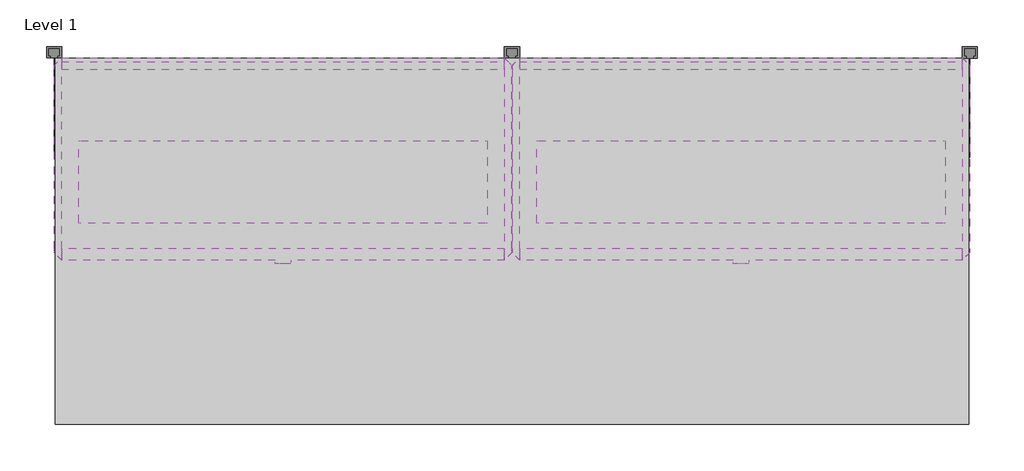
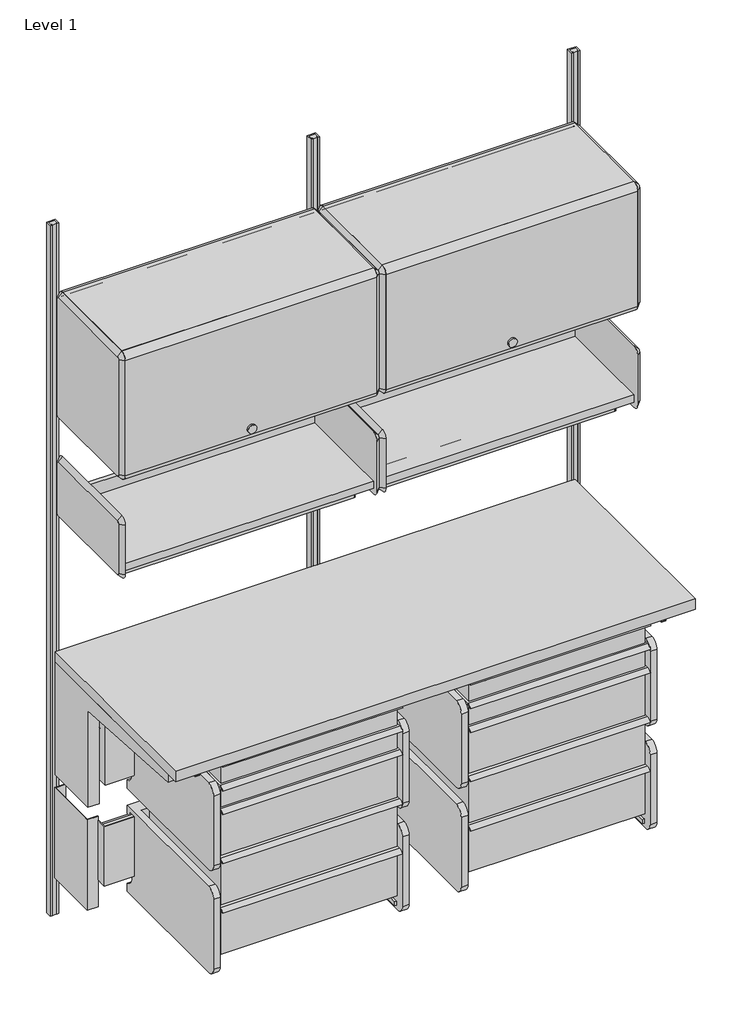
# One storey: 26 furniture elements, 2 light fixtures.
"""IFC4 building model written with IfcOpenShell, lengths in millimetres."""

from ifc_helpers import new_model, si_unit, origin, place, context, project, spatial, transform, mapped, element, save
from components import furniture_30ac351e, furniture_56be9a9d, furniture_df0166ae, furniture_f2a341e6, furniture_7098341d, furniture_a8f42cb3, furniture_48dc0a6c, furniture_10db817a, furniture_84h_ea425779, a_3_959e08d9, a_3_3943aac6, b_6_f3207868, b_6_2be62e06, b_6_bdab6ed6, light_fixture_30w_for_action_office_7d6e6015

model = new_model("IFC4")

# Units and contexts
model_context = context("Model", 3, world=origin())
ifc_project = project(units=[si_unit("LENGTHUNIT", "METRE", prefix="MILLI")], contexts=[model_context])

# Site, building, storey
site = spatial("IfcSite", under=ifc_project)
building = spatial("IfcBuilding", under=site)
storey = spatial("IfcBuildingStorey", under=building, Name="Level 1", Elevation=0.0)

# Furniture
placement = place(None, origin())
furniture_shape = furniture_30ac351e(model_context)
element("IfcFurniture", 1, ObjectType="HermanMiller_CoStruc_CO205_CFrame : 10H x 17D x 22W", at=placement, inside=storey, context=model_context, shape_type="MappedRepresentation", body=[
    mapped(furniture_shape, transform((310.5047151, -259.7955597, 0.0), x_axis=(1.0, 0.0, 0.0), y_axis=(0.0, 1.0, 0.0), z_axis=(0.0, 0.0, 1.0))),
])
element("IfcFurniture", 2, ObjectType="HermanMiller_CoStruc_CO205_CFrame : 10H x 17D x 22W", at=placement, inside=storey, context=model_context, shape_type="MappedRepresentation", body=[
    mapped(furniture_shape, transform((1035.1514751, -259.7955597, 0.0), x_axis=(1.0, 0.0, 0.0), y_axis=(0.0, 1.0, 0.0), z_axis=(0.0, 0.0, 1.0))),
])
furniture_2_shape = furniture_56be9a9d(model_context)
element("IfcFurniture", 3, ObjectType="HermanMiller_CoStruc_CO205_CFrame : 10H x 17D x 22W", at=placement, inside=storey, context=model_context, shape_type="MappedRepresentation", body=[
    mapped(furniture_2_shape, transform((310.5047151, -259.7955597, 0.0), x_axis=(1.0, 0.0, 0.0), y_axis=(0.0, 1.0, 0.0), z_axis=(0.0, 0.0, 1.0))),
])
element("IfcFurniture", 4, ObjectType="HermanMiller_CoStruc_CO205_CFrame : 10H x 17D x 22W", at=placement, inside=storey, context=model_context, shape_type="MappedRepresentation", body=[
    mapped(furniture_2_shape, transform((1035.1514751, -259.7955597, 0.0), x_axis=(1.0, 0.0, 0.0), y_axis=(0.0, 1.0, 0.0), z_axis=(0.0, 0.0, 1.0))),
])
furniture_3_shape = furniture_df0166ae(model_context)
element("IfcFurniture", 5, ObjectType="HermanMiller_CoStruc_C2192_CFrameSupport : 11H x 24D x 60W", at=placement, inside=storey, context=model_context, shape_type="MappedRepresentation", body=[
    mapped(furniture_3_shape, transform((762.0, 107.15625, 0.0), x_axis=(1.0, 0.0, 0.0), y_axis=(0.0, 1.0, 0.0), z_axis=(0.0, 0.0, 1.0))),
])
furniture_4_shape = furniture_f2a341e6(model_context)
element("IfcFurniture", 6, ObjectType="HermanMiller_CoStruc_C2141_Heavy-DutyWorkSurface : 24D x 60W Lam", at=placement, inside=storey, context=model_context, shape_type="MappedRepresentation", body=[
    mapped(furniture_4_shape, transform((304.8, -196.85, 0.0), x_axis=(1.0, 0.0, 0.0), y_axis=(0.0, 1.0, 0.0), z_axis=(0.0, 0.0, 1.0))),
])
furniture_5_shape = furniture_7098341d(model_context)
element("IfcFurniture", 7, ObjectType="HermanMiller_CoStruc_C2140W_WorkSurfaceSupport_ComponentAdaptor : 14H x 24D x 60W", at=placement, inside=storey, context=model_context, shape_type="MappedRepresentation", body=[
    mapped(furniture_5_shape, transform((762.0, -196.85, 0.0), x_axis=(1.0, 0.0, 0.0), y_axis=(0.0, 1.0, 0.0), z_axis=(0.0, 0.0, 1.0))),
])
furniture_6_shape = furniture_a8f42cb3(model_context)
element("IfcFurniture", 8, ObjectType="HermanMiller_ActionOffice_A3220_B-StyleStorageDisplay : Shelf 13D x 30W", at=placement, inside=storey, context=model_context, shape_type="MappedRepresentation", body=[
    mapped(furniture_6_shape, transform((1266.9420045, -200.025, 0.0), x_axis=(1.0, 0.0, 0.0), y_axis=(0.0, 1.0, 0.0), z_axis=(0.0, 0.0, 1.0))),
])
element("IfcFurniture", 9, ObjectType="HermanMiller_ActionOffice_A3220_B-StyleStorageDisplay : Shelf 13D x 30W", at=placement, inside=storey, context=model_context, shape_type="MappedRepresentation", body=[
    mapped(furniture_6_shape, transform((504.9420045, -200.025, 0.0), x_axis=(1.0, 0.0, 0.0), y_axis=(0.0, 1.0, 0.0), z_axis=(0.0, 0.0, 1.0))),
])
furniture_7_shape = furniture_48dc0a6c(model_context)
element("IfcFurniture", 10, ObjectType="HermanMiller_ActionOffice_B-StyleFlipperDoor : Paint 15-1/2H x 13D x 30W", at=placement, inside=storey, context=model_context, shape_type="MappedRepresentation", body=[
    mapped(furniture_7_shape, transform((381.0, -200.025, 457.2), x_axis=(1.0, 0.0, 0.0), y_axis=(0.0, 1.0, 0.0), z_axis=(0.0, 0.0, 1.0))),
])
element("IfcFurniture", 11, ObjectType="HermanMiller_ActionOffice_B-StyleFlipperDoor : Paint 15-1/2H x 13D x 30W", at=placement, inside=storey, context=model_context, shape_type="MappedRepresentation", body=[
    mapped(furniture_7_shape, transform((1143.0, -200.025, 457.2), x_axis=(1.0, 0.0, 0.0), y_axis=(0.0, 1.0, 0.0), z_axis=(0.0, 0.0, 1.0))),
])
furniture_8_shape = furniture_10db817a(model_context)
element("IfcFurniture", 12, ObjectType="HermanMiller_CoStruc_B-StyleShelf : 15-1/2H x 13D x 30W", at=placement, inside=storey, context=model_context, shape_type="MappedRepresentation", body=[
    mapped(furniture_8_shape, transform((504.9420045, -200.025, 457.2), x_axis=(1.0, 0.0, 0.0), y_axis=(0.0, 1.0, 0.0), z_axis=(0.0, 0.0, 1.0))),
])
element("IfcFurniture", 13, ObjectType="HermanMiller_CoStruc_B-StyleShelf : 15-1/2H x 13D x 30W", at=placement, inside=storey, context=model_context, shape_type="MappedRepresentation", body=[
    mapped(furniture_8_shape, transform((1266.9420045, -200.025, 457.2), x_axis=(1.0, 0.0, 0.0), y_axis=(0.0, 1.0, 0.0), z_axis=(0.0, 0.0, 1.0))),
])
furniture_84h_shape = furniture_84h_ea425779(model_context)
element("IfcFurniture", 14, ObjectType="HermanMiller_ActionOffice_AO213_WallStrip : 84H", at=placement, inside=storey, context=model_context, shape_type="MappedRepresentation", body=[
    mapped(furniture_84h_shape, transform((1524.0, -0.0384625, 0.0), x_axis=(1.0, 0.0, 0.0), y_axis=(0.0, 1.0, 0.0), z_axis=(0.0, 0.0, 1.0))),
])
element("IfcFurniture", 15, ObjectType="HermanMiller_ActionOffice_AO213_WallStrip : 84H", at=placement, inside=storey, context=model_context, shape_type="MappedRepresentation", body=[
    mapped(furniture_84h_shape, transform((762.0, 0.0, 0.0), x_axis=(1.0, 0.0, 0.0), y_axis=(0.0, 1.0, 0.0), z_axis=(0.0, 0.0, 1.0))),
])
element("IfcFurniture", 16, ObjectType="HermanMiller_ActionOffice_AO213_WallStrip : 84H", at=placement, inside=storey, context=model_context, shape_type="MappedRepresentation", body=[
    mapped(furniture_84h_shape, transform((0.0, 0.0, 0.0), x_axis=(1.0, 0.0, 0.0), y_axis=(0.0, 1.0, 0.0), z_axis=(0.0, 0.0, 1.0))),
])
a_3_shape = a_3_959e08d9(model_context)
element("IfcFurniture", 17, ObjectType="HermanMiller_CoStruc_CO207_Drawer : A - 3", at=placement, inside=storey, context=model_context, shape_type="MappedRepresentation", body=[
    mapped(a_3_shape, transform((410.1248717, -421.61206, 0.0), x_axis=(1.0, 0.0, 0.0), y_axis=(0.0, 1.0, 0.0), z_axis=(0.0, 0.0, 1.0))),
])
element("IfcFurniture", 18, ObjectType="HermanMiller_CoStruc_CO207_Drawer : A - 3", at=placement, inside=storey, context=model_context, shape_type="MappedRepresentation", body=[
    mapped(a_3_shape, transform((1134.7716317, -421.61206, 0.0), x_axis=(1.0, 0.0, 0.0), y_axis=(0.0, 1.0, 0.0), z_axis=(0.0, 0.0, 1.0))),
])
a_3_2_shape = a_3_3943aac6(model_context)
element("IfcFurniture", 19, ObjectType="HermanMiller_CoStruc_CO207_Drawer : A - 3", at=placement, inside=storey, context=model_context, shape_type="MappedRepresentation", body=[
    mapped(a_3_2_shape, transform((410.1248717, -421.61206, 0.0), x_axis=(1.0, 0.0, 0.0), y_axis=(0.0, 1.0, 0.0), z_axis=(0.0, 0.0, 1.0))),
])
element("IfcFurniture", 20, ObjectType="HermanMiller_CoStruc_CO207_Drawer : A - 3", at=placement, inside=storey, context=model_context, shape_type="MappedRepresentation", body=[
    mapped(a_3_2_shape, transform((1134.7716317, -421.61206, 0.0), x_axis=(1.0, 0.0, 0.0), y_axis=(0.0, 1.0, 0.0), z_axis=(0.0, 0.0, 1.0))),
])
b_6_shape = b_6_f3207868(model_context)
element("IfcFurniture", 21, ObjectType="HermanMiller_CoStruc_CO207_Drawer : B - 6", at=placement, inside=storey, context=model_context, shape_type="MappedRepresentation", body=[
    mapped(b_6_shape, transform((410.1248717, -421.61206, 0.0), x_axis=(1.0, 0.0, 0.0), y_axis=(0.0, 1.0, 0.0), z_axis=(0.0, 0.0, 1.0))),
])
element("IfcFurniture", 22, ObjectType="HermanMiller_CoStruc_CO207_Drawer : B - 6", at=placement, inside=storey, context=model_context, shape_type="MappedRepresentation", body=[
    mapped(b_6_shape, transform((1134.7716317, -421.61206, 0.0), x_axis=(1.0, 0.0, 0.0), y_axis=(0.0, 1.0, 0.0), z_axis=(0.0, 0.0, 1.0))),
])
b_6_2_shape = b_6_2be62e06(model_context)
element("IfcFurniture", 23, ObjectType="HermanMiller_CoStruc_CO207_Drawer : B - 6", at=placement, inside=storey, context=model_context, shape_type="MappedRepresentation", body=[
    mapped(b_6_2_shape, transform((410.1248717, -421.61206, 0.0), x_axis=(1.0, 0.0, 0.0), y_axis=(0.0, 1.0, 0.0), z_axis=(0.0, 0.0, 1.0))),
])
element("IfcFurniture", 24, ObjectType="HermanMiller_CoStruc_CO207_Drawer : B - 6", at=placement, inside=storey, context=model_context, shape_type="MappedRepresentation", body=[
    mapped(b_6_2_shape, transform((1134.7716317, -421.61206, 0.0), x_axis=(1.0, 0.0, 0.0), y_axis=(0.0, 1.0, 0.0), z_axis=(0.0, 0.0, 1.0))),
])
b_6_3_shape = b_6_bdab6ed6(model_context)
element("IfcFurniture", 25, ObjectType="HermanMiller_CoStruc_CO207_Drawer : B - 6", at=placement, inside=storey, context=model_context, shape_type="MappedRepresentation", body=[
    mapped(b_6_3_shape, transform((410.1248717, -421.61206, 0.0), x_axis=(1.0, 0.0, 0.0), y_axis=(0.0, 1.0, 0.0), z_axis=(0.0, 0.0, 1.0))),
])
element("IfcFurniture", 26, ObjectType="HermanMiller_CoStruc_CO207_Drawer : B - 6", at=placement, inside=storey, context=model_context, shape_type="MappedRepresentation", body=[
    mapped(b_6_3_shape, transform((1134.7716317, -421.61206, 0.0), x_axis=(1.0, 0.0, 0.0), y_axis=(0.0, 1.0, 0.0), z_axis=(0.0, 0.0, 1.0))),
])

# Light fixtures
light_fixture_30w_for_action_office_shape = light_fixture_30w_for_action_office_7d6e6015(model_context)
element("IfcLightFixture", 27, ObjectType="HermanMiller_SupplementalProducts_G6170_EUnderShelfLEDTaskLight : 30W for Action Office", at=placement, inside=storey, context=model_context, shape_type="MappedRepresentation", body=[
    mapped(light_fixture_30w_for_action_office_shape, transform((381.0, -225.425, 0.0), x_axis=(1.0, 0.0, 0.0), y_axis=(0.0, 1.0, 0.0), z_axis=(0.0, 0.0, 1.0))),
])
element("IfcLightFixture", 28, ObjectType="HermanMiller_SupplementalProducts_G6170_EUnderShelfLEDTaskLight : 30W for Action Office", at=placement, inside=storey, context=model_context, shape_type="MappedRepresentation", body=[
    mapped(light_fixture_30w_for_action_office_shape, transform((1143.0, -225.425, 0.0), x_axis=(1.0, 0.0, 0.0), y_axis=(0.0, 1.0, 0.0), z_axis=(0.0, 0.0, 1.0))),
])

save(model, "model.ifc")
